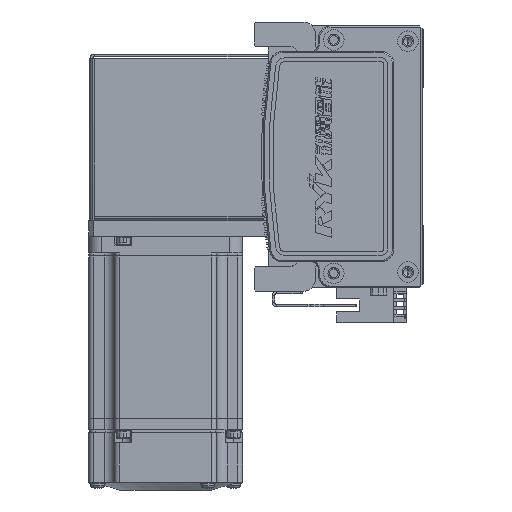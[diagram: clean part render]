
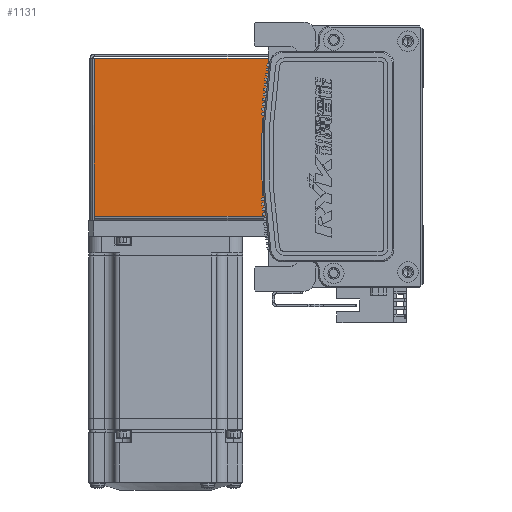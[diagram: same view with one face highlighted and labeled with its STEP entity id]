
A CAD part, left-side view. The second image highlights one B-rep face of the part: STEP entity #1131.
In plain terms, the highlighted planar face has unit normal (-1, 0, 0) as drawn and (0, 0, 1) by its records, which use the part's own axes.
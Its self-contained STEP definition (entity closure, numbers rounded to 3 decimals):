
#251 = AXIS2_PLACEMENT_3D ( 'NONE', #54255, #64394, #59446 ) ;
#292 = CARTESIAN_POINT ( 'NONE',  ( -32.5, 0.737, 35. ) ) ;
#1131 = ADVANCED_FACE ( 'NONE', ( #25431 ), #59639, .F. ) ;
#2440 = VERTEX_POINT ( 'NONE', #65813 ) ;
#4190 = ORIENTED_EDGE ( 'NONE', *, *, #61083, .F. ) ;
#6314 = VECTOR ( 'NONE', #21149, 1000. ) ;
#7129 = CARTESIAN_POINT ( 'NONE',  ( 30.763, 0.737, 35. ) ) ;
#8041 = EDGE_CURVE ( 'NONE', #60539, #2440, #36174, .T. ) ;
#10280 = VECTOR ( 'NONE', #62482, 1000. ) ;
#11160 = LINE ( 'NONE', #292, #6314 ) ;
#14160 = ORIENTED_EDGE ( 'NONE', *, *, #29527, .T. ) ;
#15705 = CARTESIAN_POINT ( 'NONE',  ( 30.763, 0.737, 35. ) ) ;
#16505 = ORIENTED_EDGE ( 'NONE', *, *, #8041, .T. ) ;
#17825 = VECTOR ( 'NONE', #62697, 1000. ) ;
#18576 = EDGE_LOOP ( 'NONE', ( #16505, #14160, #23068, #4190 ) ) ;
#21149 = DIRECTION ( 'NONE',  ( -1., 0., 0. ) ) ;
#23068 = ORIENTED_EDGE ( 'NONE', *, *, #41047, .F. ) ;
#25431 = FACE_OUTER_BOUND ( 'NONE', #18576, .T. ) ;
#27398 = VERTEX_POINT ( 'NONE', #57225 ) ;
#27873 = VERTEX_POINT ( 'NONE', #66537 ) ;
#29527 = EDGE_CURVE ( 'NONE', #2440, #27398, #58184, .T. ) ;
#34122 = VECTOR ( 'NONE', #52061, 1000. ) ;
#35743 = LINE ( 'NONE', #56808, #34122 ) ;
#36174 = LINE ( 'NONE', #15705, #10280 ) ;
#41047 = EDGE_CURVE ( 'NONE', #27873, #27398, #35743, .T. ) ;
#41921 = CARTESIAN_POINT ( 'NONE',  ( 0., 68.5, 35. ) ) ;
#52061 = DIRECTION ( 'NONE',  ( 0., 1., 0. ) ) ;
#54255 = CARTESIAN_POINT ( 'NONE',  ( 0., 0., 35. ) ) ;
#56808 = CARTESIAN_POINT ( 'NONE',  ( -30.793, 0., 35. ) ) ;
#57225 = CARTESIAN_POINT ( 'NONE',  ( -30.793, 68.5, 35. ) ) ;
#58184 = LINE ( 'NONE', #41921, #17825 ) ;
#59446 = DIRECTION ( 'NONE',  ( -1., 0., 0. ) ) ;
#59639 = PLANE ( 'NONE',  #251 ) ;
#60539 = VERTEX_POINT ( 'NONE', #7129 ) ;
#61083 = EDGE_CURVE ( 'NONE', #60539, #27873, #11160, .T. ) ;
#62482 = DIRECTION ( 'NONE',  ( 0., 1., 0. ) ) ;
#62697 = DIRECTION ( 'NONE',  ( -1., 0., 0. ) ) ;
#64394 = DIRECTION ( 'NONE',  ( 0., 0., -1. ) ) ;
#65813 = CARTESIAN_POINT ( 'NONE',  ( 30.763, 68.5, 35. ) ) ;
#66537 = CARTESIAN_POINT ( 'NONE',  ( -30.793, 0.737, 35. ) ) ;
